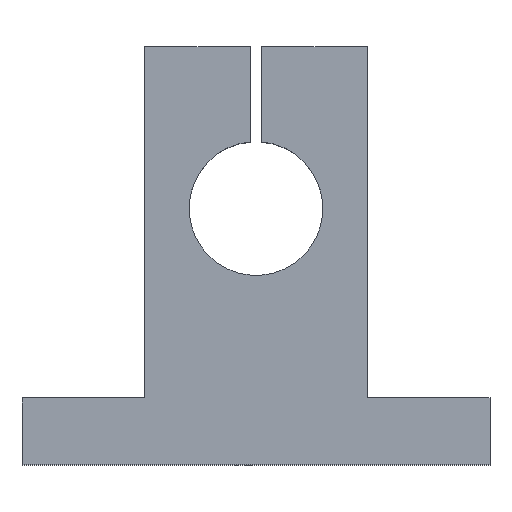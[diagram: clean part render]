
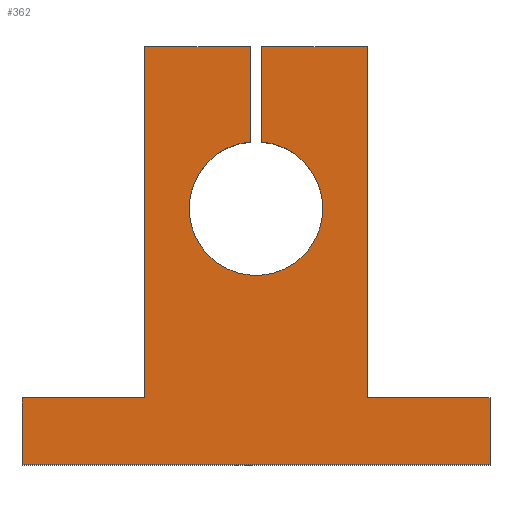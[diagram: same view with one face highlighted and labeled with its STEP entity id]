
A CAD part, top view. The second image highlights one B-rep face of the part: STEP entity #362.
In plain terms, the highlighted planar face has unit normal (0, 0, 1).
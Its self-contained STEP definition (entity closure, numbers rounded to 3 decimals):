
#27=CIRCLE('',#397,6.);
#47=ORIENTED_EDGE('',*,*,#139,.F.);
#48=ORIENTED_EDGE('',*,*,#135,.T.);
#49=ORIENTED_EDGE('',*,*,#140,.T.);
#50=ORIENTED_EDGE('',*,*,#141,.T.);
#51=ORIENTED_EDGE('',*,*,#142,.T.);
#52=ORIENTED_EDGE('',*,*,#143,.T.);
#53=ORIENTED_EDGE('',*,*,#144,.T.);
#54=ORIENTED_EDGE('',*,*,#145,.T.);
#55=ORIENTED_EDGE('',*,*,#146,.T.);
#56=ORIENTED_EDGE('',*,*,#147,.T.);
#57=ORIENTED_EDGE('',*,*,#132,.F.);
#58=ORIENTED_EDGE('',*,*,#148,.F.);
#132=EDGE_CURVE('',#178,#179,#212,.T.);
#135=EDGE_CURVE('',#181,#182,#214,.T.);
#139=EDGE_CURVE('',#181,#185,#218,.T.);
#140=EDGE_CURVE('',#182,#186,#219,.T.);
#141=EDGE_CURVE('',#186,#187,#220,.T.);
#142=EDGE_CURVE('',#187,#188,#221,.T.);
#143=EDGE_CURVE('',#188,#189,#222,.T.);
#144=EDGE_CURVE('',#189,#190,#223,.T.);
#145=EDGE_CURVE('',#190,#191,#224,.T.);
#146=EDGE_CURVE('',#191,#192,#225,.T.);
#147=EDGE_CURVE('',#192,#179,#226,.T.);
#148=EDGE_CURVE('',#185,#178,#27,.T.);
#178=VERTEX_POINT('',#531);
#179=VERTEX_POINT('',#533);
#181=VERTEX_POINT('',#539);
#182=VERTEX_POINT('',#540);
#185=VERTEX_POINT('',#548);
#186=VERTEX_POINT('',#550);
#187=VERTEX_POINT('',#552);
#188=VERTEX_POINT('',#554);
#189=VERTEX_POINT('',#556);
#190=VERTEX_POINT('',#558);
#191=VERTEX_POINT('',#560);
#192=VERTEX_POINT('',#562);
#212=LINE('',#532,#246);
#214=LINE('',#538,#248);
#218=LINE('',#547,#252);
#219=LINE('',#549,#253);
#220=LINE('',#551,#254);
#221=LINE('',#553,#255);
#222=LINE('',#555,#256);
#223=LINE('',#557,#257);
#224=LINE('',#559,#258);
#225=LINE('',#561,#259);
#226=LINE('',#563,#260);
#246=VECTOR('',#431,1000.);
#248=VECTOR('',#437,1000.);
#252=VECTOR('',#443,1000.);
#253=VECTOR('',#444,1000.);
#254=VECTOR('',#445,1000.);
#255=VECTOR('',#446,1000.);
#256=VECTOR('',#447,1000.);
#257=VECTOR('',#448,1000.);
#258=VECTOR('',#449,1000.);
#259=VECTOR('',#450,1000.);
#260=VECTOR('',#451,1000.);
#281=EDGE_LOOP('',(#47,#48,#49,#50,#51,#52,#53,#54,#55,#56,#57,#58));
#315=FACE_BOUND('',#281,.T.);
#348=PLANE('',#396);
#362=ADVANCED_FACE('',(#315),#348,.T.);
#396=AXIS2_PLACEMENT_3D('',#546,#441,#442);
#397=AXIS2_PLACEMENT_3D('',#564,#452,#453);
#431=DIRECTION('',(0.,1.,0.));
#437=DIRECTION('',(-1.,0.,0.));
#441=DIRECTION('',(0.,0.,1.));
#442=DIRECTION('',(1.,0.,0.));
#443=DIRECTION('',(0.,-1.,0.));
#444=DIRECTION('',(0.,-1.,0.));
#445=DIRECTION('',(-1.,0.,0.));
#446=DIRECTION('',(0.,-1.,0.));
#447=DIRECTION('',(1.,0.,0.));
#448=DIRECTION('',(0.,1.,0.));
#449=DIRECTION('',(-1.,0.,0.));
#450=DIRECTION('',(0.,1.,0.));
#451=DIRECTION('',(-1.,0.,0.));
#452=DIRECTION('',(0.,0.,1.));
#453=DIRECTION('',(1.,0.,0.));
#531=CARTESIAN_POINT('',(0.5,5.979,7.));
#532=CARTESIAN_POINT('',(0.5,14.5,7.));
#533=CARTESIAN_POINT('',(0.5,14.5,7.));
#538=CARTESIAN_POINT('',(10.,14.5,7.));
#539=CARTESIAN_POINT('',(-0.5,14.5,7.));
#540=CARTESIAN_POINT('',(-10.,14.5,7.));
#546=CARTESIAN_POINT('',(21.,-17.,7.));
#547=CARTESIAN_POINT('',(-0.5,14.5,7.));
#548=CARTESIAN_POINT('',(-0.5,5.979,7.));
#549=CARTESIAN_POINT('',(-10.,-17.,7.));
#550=CARTESIAN_POINT('',(-10.,-17.,7.));
#551=CARTESIAN_POINT('',(-21.,-17.,7.));
#552=CARTESIAN_POINT('',(-21.,-17.,7.));
#553=CARTESIAN_POINT('',(-21.,-23.,7.));
#554=CARTESIAN_POINT('',(-21.,-23.,7.));
#555=CARTESIAN_POINT('',(-21.,-23.,7.));
#556=CARTESIAN_POINT('',(21.,-23.,7.));
#557=CARTESIAN_POINT('',(21.,-23.,7.));
#558=CARTESIAN_POINT('',(21.,-17.,7.));
#559=CARTESIAN_POINT('',(21.,-17.,7.));
#560=CARTESIAN_POINT('',(10.,-17.,7.));
#561=CARTESIAN_POINT('',(10.,-17.,7.));
#562=CARTESIAN_POINT('',(10.,14.5,7.));
#563=CARTESIAN_POINT('',(10.,14.5,7.));
#564=CARTESIAN_POINT('',(0.,0.,7.));
